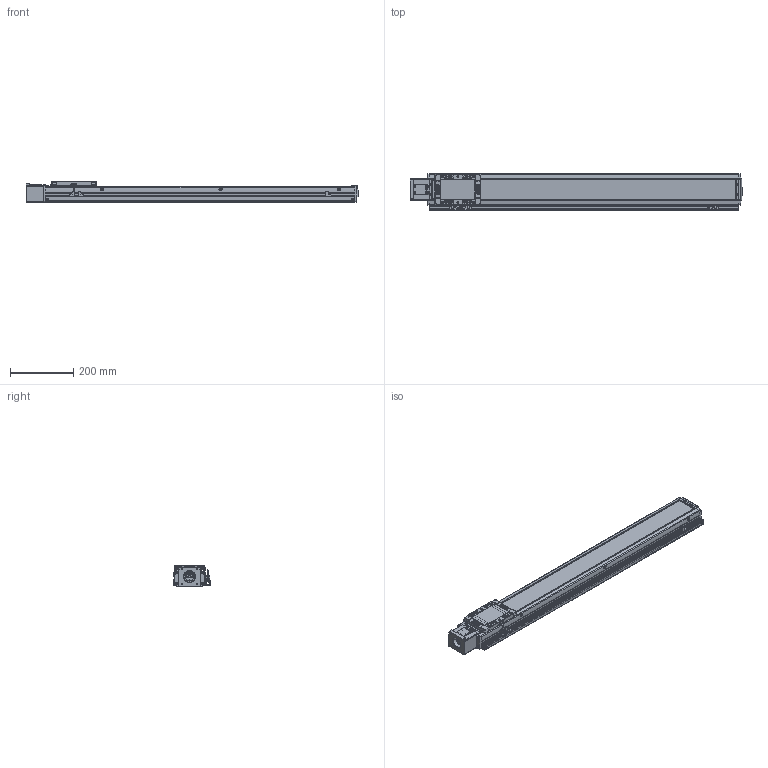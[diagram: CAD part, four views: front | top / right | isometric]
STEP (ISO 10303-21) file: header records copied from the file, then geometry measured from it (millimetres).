
FILE_DESCRIPTION(('STEP AP214'),'1');
FILE_NAME('Z:/Web/3D/SAN100/SAN100 양산용 (STEP)/SAN100ㅁㅁ-800S+3SR.stp','2013-04-30T01:12:12',(' '),(' '),'Spatial InterOp 3D',' ',' ');
FILE_SCHEMA(('automotive_design'));
Length unit declared in the file: millimetre
Products named in the file (60): EE-SX674; SBK-SX674-352; 스크루 : Round - M3.0 x 6.0; M3.0 x 6.0; SRL-16x17-380L; SGD-SAN100; SUS COVER; SFX-SAN100; RRCV-SAN100; 스크루 : Round - M4.0 x 10.0; FRBL-SAN100; SLBL-SAN100; SLCV-SAN100; 스크루 : Countersunk - M3.0 x 6.0; BASE; 스크루 : Round - M5.0 x 6.0; MTHZ-SAN100-S56A; SDA26C-8-6.35; SSFX-SAN65; CPLCV-SAN65; FRCV-SAN100
Bounding box: 1052.5 x 116 x 66 mm (x, y, z)
Volume: 2939174.1 mm3; surface area: 809168.9 mm2
Topology: 60 solids, 61 shells, 3023 faces, 7948 edges, 5155 vertices
Faces by surface type: plane 1524, cylinder 1097, cone 261, sphere 76, torus 45, bspline 20
Entity records: 120912 total; most frequent: CARTESIAN_POINT 18844, DIRECTION 16788, ORIENTED_EDGE 15692, EDGE_CURVE 7846, AXIS2_PLACEMENT_3D 6086, VERTEX_POINT 5155, LINE 4616, VECTOR 4616
